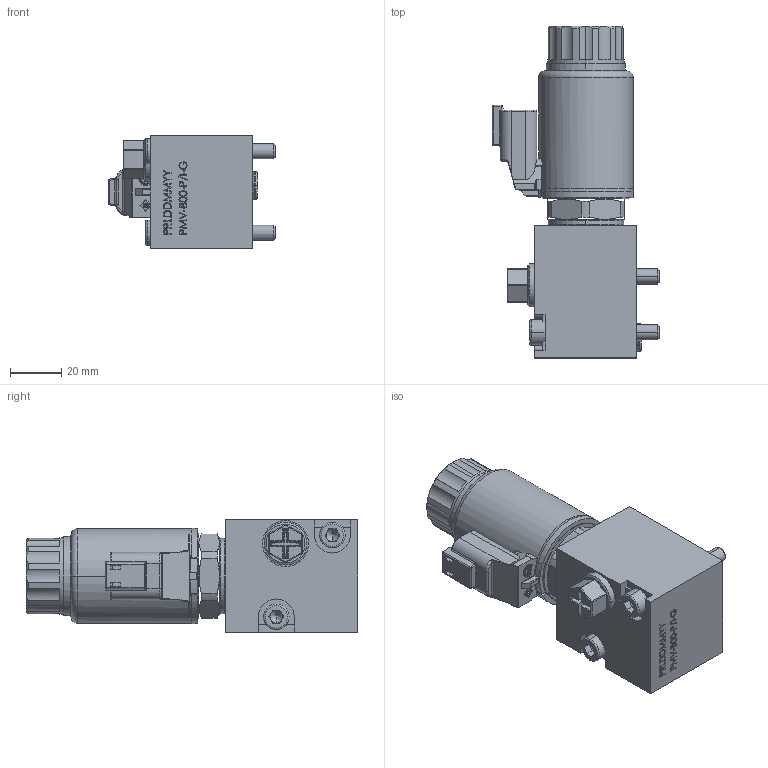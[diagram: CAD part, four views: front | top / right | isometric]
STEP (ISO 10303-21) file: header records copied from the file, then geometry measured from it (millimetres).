
FILE_DESCRIPTION (( 'STEP AP214' ), '1' );
FILE_NAME ('800.0538.STEP', '2023-10-27T10:53:36', ( '' ), ( '' ), 'SwSTEP 2.0', 'SolidWorks 2022', '' );
FILE_SCHEMA (( 'AUTOMOTIVE_DESIGN' ));
Length unit declared in the file: millimetre
Products named in the file (1): 800.0538
Bounding box: 65.7 x 130.1 x 44 mm (x, y, z)
Surface area: 29794.9 mm2 (no closed solid volume)
Topology: 0 solids, 16 shells, 728 faces, 2488 edges, 1710 vertices
Faces by surface type: plane 404, cylinder 146, bspline 119, cone 28, torus 17, sphere 14
Entity records: 45241 total; most frequent: CARTESIAN_POINT 16866, ORIENTED_EDGE 4081, DIRECTION 3858, EDGE_CURVE 2474, VERTEX_POINT 1710, VECTOR 1582, LINE 1582, AXIS2_PLACEMENT_3D 1138
